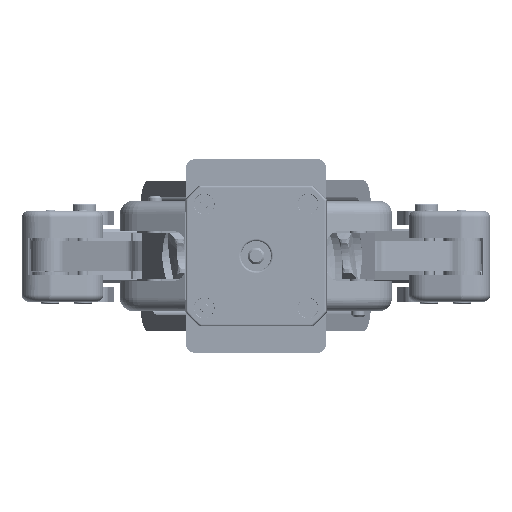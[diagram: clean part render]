
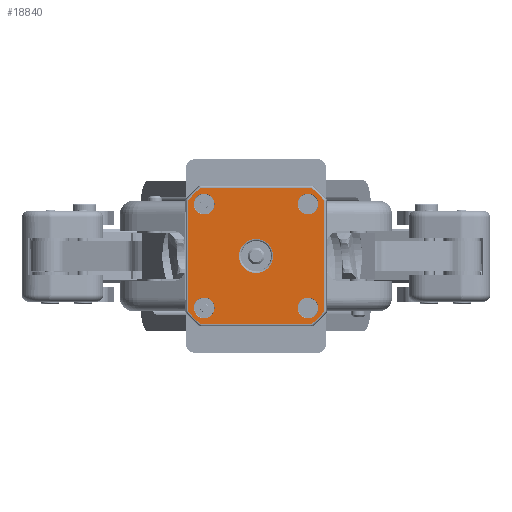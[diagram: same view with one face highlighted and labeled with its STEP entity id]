
A CAD part, front view. The second image highlights one B-rep face of the part: STEP entity #18840.
In plain terms, the highlighted planar face has unit normal (0, -1, 0) as drawn and (0, 1, 0) by its records, which use the part's own axes.
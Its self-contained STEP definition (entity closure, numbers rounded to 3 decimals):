
#1507=FACE_BOUND('',#3239,.T.);
#1508=FACE_BOUND('',#3240,.T.);
#1509=FACE_BOUND('',#3241,.T.);
#1510=FACE_BOUND('',#3242,.T.);
#1511=FACE_BOUND('',#3243,.T.);
#1718=PLANE('',#20433);
#2114=FACE_OUTER_BOUND('',#3238,.T.);
#3238=EDGE_LOOP('',(#12757,#12758,#12759,#12760,#12761,#12762,#12763,#12764));
#3239=EDGE_LOOP('',(#12765));
#3240=EDGE_LOOP('',(#12766));
#3241=EDGE_LOOP('',(#12767));
#3242=EDGE_LOOP('',(#12768));
#3243=EDGE_LOOP('',(#12769));
#4600=LINE('',#28540,#5703);
#4601=LINE('',#28544,#5704);
#4602=LINE('',#28548,#5705);
#4603=LINE('',#28551,#5706);
#5703=VECTOR('',#22890,10.);
#5704=VECTOR('',#22893,10.);
#5705=VECTOR('',#22896,10.);
#5706=VECTOR('',#22899,10.);
#6747=CIRCLE('',#20434,26.236);
#6748=CIRCLE('',#20435,26.236);
#6749=CIRCLE('',#20436,26.236);
#6750=CIRCLE('',#20437,26.236);
#6751=CIRCLE('',#20438,3.1);
#6752=CIRCLE('',#20439,3.1);
#6753=CIRCLE('',#20440,3.1);
#6754=CIRCLE('',#20441,3.1);
#6755=CIRCLE('',#20442,5.1);
#7867=VERTEX_POINT('',#28536);
#7868=VERTEX_POINT('',#28537);
#7869=VERTEX_POINT('',#28539);
#7870=VERTEX_POINT('',#28541);
#7871=VERTEX_POINT('',#28543);
#7872=VERTEX_POINT('',#28545);
#7873=VERTEX_POINT('',#28547);
#7874=VERTEX_POINT('',#28549);
#7875=VERTEX_POINT('',#28552);
#7876=VERTEX_POINT('',#28554);
#7877=VERTEX_POINT('',#28556);
#7878=VERTEX_POINT('',#28558);
#7879=VERTEX_POINT('',#28560);
#9779=EDGE_CURVE('',#7867,#7868,#6747,.T.);
#9780=EDGE_CURVE('',#7868,#7869,#4600,.T.);
#9781=EDGE_CURVE('',#7869,#7870,#6748,.T.);
#9782=EDGE_CURVE('',#7870,#7871,#4601,.T.);
#9783=EDGE_CURVE('',#7871,#7872,#6749,.T.);
#9784=EDGE_CURVE('',#7872,#7873,#4602,.T.);
#9785=EDGE_CURVE('',#7873,#7874,#6750,.T.);
#9786=EDGE_CURVE('',#7874,#7867,#4603,.T.);
#9787=EDGE_CURVE('',#7875,#7875,#6751,.T.);
#9788=EDGE_CURVE('',#7876,#7876,#6752,.T.);
#9789=EDGE_CURVE('',#7877,#7877,#6753,.T.);
#9790=EDGE_CURVE('',#7878,#7878,#6754,.T.);
#9791=EDGE_CURVE('',#7879,#7879,#6755,.T.);
#12757=ORIENTED_EDGE('',*,*,#9779,.T.);
#12758=ORIENTED_EDGE('',*,*,#9780,.T.);
#12759=ORIENTED_EDGE('',*,*,#9781,.T.);
#12760=ORIENTED_EDGE('',*,*,#9782,.T.);
#12761=ORIENTED_EDGE('',*,*,#9783,.T.);
#12762=ORIENTED_EDGE('',*,*,#9784,.T.);
#12763=ORIENTED_EDGE('',*,*,#9785,.T.);
#12764=ORIENTED_EDGE('',*,*,#9786,.T.);
#12765=ORIENTED_EDGE('',*,*,#9787,.F.);
#12766=ORIENTED_EDGE('',*,*,#9788,.F.);
#12767=ORIENTED_EDGE('',*,*,#9789,.F.);
#12768=ORIENTED_EDGE('',*,*,#9790,.F.);
#12769=ORIENTED_EDGE('',*,*,#9791,.T.);
#18840=ADVANCED_FACE('',(#2114,#1507,#1508,#1509,#1510,#1511),#1718,.T.);
#20433=AXIS2_PLACEMENT_3D('',#28535,#22886,#22887);
#20434=AXIS2_PLACEMENT_3D('',#28538,#22888,#22889);
#20435=AXIS2_PLACEMENT_3D('',#28542,#22891,#22892);
#20436=AXIS2_PLACEMENT_3D('',#28546,#22894,#22895);
#20437=AXIS2_PLACEMENT_3D('',#28550,#22897,#22898);
#20438=AXIS2_PLACEMENT_3D('',#28553,#22900,#22901);
#20439=AXIS2_PLACEMENT_3D('',#28555,#22902,#22903);
#20440=AXIS2_PLACEMENT_3D('',#28557,#22904,#22905);
#20441=AXIS2_PLACEMENT_3D('',#28559,#22906,#22907);
#20442=AXIS2_PLACEMENT_3D('',#28561,#22908,#22909);
#22886=DIRECTION('center_axis',(0.,1.,0.));
#22887=DIRECTION('ref_axis',(0.,0.,1.));
#22888=DIRECTION('center_axis',(0.,1.,0.));
#22889=DIRECTION('ref_axis',(0.629,0.,-0.777));
#22890=DIRECTION('',(-1.,0.,0.));
#22891=DIRECTION('center_axis',(0.,1.,0.));
#22892=DIRECTION('ref_axis',(-0.777,0.,-0.629));
#22893=DIRECTION('',(0.,0.,1.));
#22894=DIRECTION('center_axis',(0.,1.,0.));
#22895=DIRECTION('ref_axis',(-0.629,0.,0.777));
#22896=DIRECTION('',(1.,0.,0.));
#22897=DIRECTION('center_axis',(0.,1.,0.));
#22898=DIRECTION('ref_axis',(0.777,0.,0.629));
#22899=DIRECTION('',(0.,0.,-1.));
#22900=DIRECTION('center_axis',(0.,1.,0.));
#22901=DIRECTION('ref_axis',(0.,0.,-1.));
#22902=DIRECTION('center_axis',(0.,1.,0.));
#22903=DIRECTION('ref_axis',(0.,0.,-1.));
#22904=DIRECTION('center_axis',(0.,1.,0.));
#22905=DIRECTION('ref_axis',(0.,0.,-1.));
#22906=DIRECTION('center_axis',(0.,1.,0.));
#22907=DIRECTION('ref_axis',(0.,0.,-1.));
#22908=DIRECTION('center_axis',(0.,-1.,0.));
#22909=DIRECTION('ref_axis',(0.,0.,-1.));
#28535=CARTESIAN_POINT('Origin',(-20.396,29.288,0.));
#28536=CARTESIAN_POINT('',(20.386,29.288,-16.515));
#28537=CARTESIAN_POINT('',(16.515,29.288,-20.386));
#28538=CARTESIAN_POINT('Origin',(0.,29.288,
0.));
#28539=CARTESIAN_POINT('',(-16.515,29.288,-20.386));
#28540=CARTESIAN_POINT('',(16.515,29.288,-20.386));
#28541=CARTESIAN_POINT('',(-20.386,29.288,-16.515));
#28542=CARTESIAN_POINT('Origin',(0.,29.288,0.));
#28543=CARTESIAN_POINT('',(-20.386,29.288,16.515));
#28544=CARTESIAN_POINT('',(-20.386,29.288,-16.515));
#28545=CARTESIAN_POINT('',(-16.515,29.288,20.386));
#28546=CARTESIAN_POINT('Origin',(0.,29.288,
0.));
#28547=CARTESIAN_POINT('',(16.515,29.288,20.386));
#28548=CARTESIAN_POINT('',(-16.515,29.288,20.386));
#28549=CARTESIAN_POINT('',(20.386,29.288,16.515));
#28550=CARTESIAN_POINT('Origin',(0.,29.288,
0.));
#28551=CARTESIAN_POINT('',(20.386,29.288,16.515));
#28552=CARTESIAN_POINT('',(-13.699,29.288,-12.977));
#28553=CARTESIAN_POINT('Origin',(-15.5,29.288,-15.5));
#28554=CARTESIAN_POINT('',(17.301,29.288,-12.977));
#28555=CARTESIAN_POINT('Origin',(15.5,29.288,-15.5));
#28556=CARTESIAN_POINT('',(17.301,29.288,18.023));
#28557=CARTESIAN_POINT('Origin',(15.5,29.288,15.5));
#28558=CARTESIAN_POINT('',(-13.699,29.288,18.023));
#28559=CARTESIAN_POINT('Origin',(-15.5,29.288,15.5));
#28560=CARTESIAN_POINT('',(0.,29.288,-5.1));
#28561=CARTESIAN_POINT('Origin',(0.,29.288,0.));
